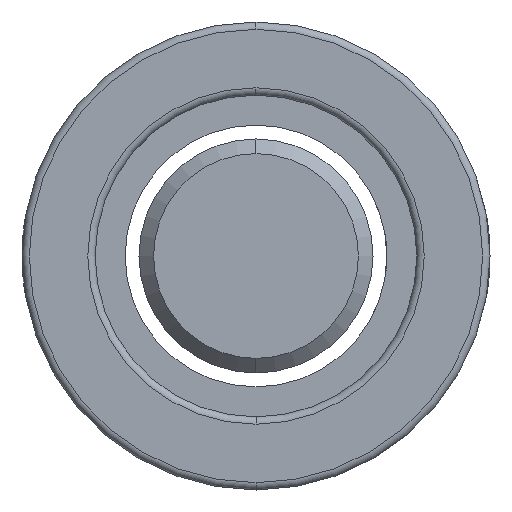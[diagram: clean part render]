
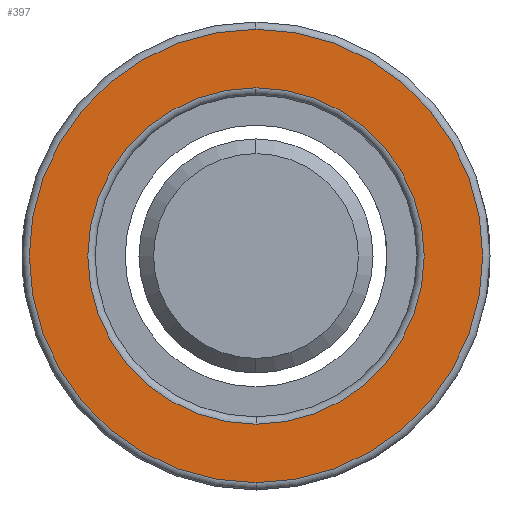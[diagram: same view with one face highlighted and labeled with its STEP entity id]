
A CAD part, left-side view. The second image highlights one B-rep face of the part: STEP entity #397.
In plain terms, the highlighted planar face has unit normal (-1, 0, 0).
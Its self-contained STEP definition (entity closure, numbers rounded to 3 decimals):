
#23 = EDGE_LOOP ( 'NONE', ( #2970, #1077 ) ) ;
#114 = ORIENTED_EDGE ( 'NONE', *, *, #3079, .T. ) ;
#153 = PLANE ( 'NONE',  #529 ) ;
#200 = DIRECTION ( 'NONE',  ( -1., 0., 0. ) ) ;
#300 = CIRCLE ( 'NONE', #648, 15.5 ) ;
#354 = DIRECTION ( 'NONE',  ( -1., 0., 0. ) ) ;
#382 = CIRCLE ( 'NONE', #1524, 11.5 ) ;
#387 = CARTESIAN_POINT ( 'NONE',  ( 0., 0., 0. ) ) ;
#393 = VERTEX_POINT ( 'NONE', #3022 ) ;
#397 = ADVANCED_FACE ( 'NONE', ( #1701, #1920 ), #153, .F. ) ;
#529 = AXIS2_PLACEMENT_3D ( 'NONE', #1853, #2333, #2075 ) ;
#630 = DIRECTION ( 'NONE',  ( 0., 0., -1. ) ) ;
#648 = AXIS2_PLACEMENT_3D ( 'NONE', #857, #354, #2555 ) ;
#671 = DIRECTION ( 'NONE',  ( 0., 0., -1. ) ) ;
#857 = CARTESIAN_POINT ( 'NONE',  ( 0., 0., 0. ) ) ;
#932 = ORIENTED_EDGE ( 'NONE', *, *, #2371, .T. ) ;
#933 = CARTESIAN_POINT ( 'NONE',  ( 0., 0., 11.5 ) ) ;
#1077 = ORIENTED_EDGE ( 'NONE', *, *, #1810, .T. ) ;
#1193 = AXIS2_PLACEMENT_3D ( 'NONE', #1357, #1847, #630 ) ;
#1357 = CARTESIAN_POINT ( 'NONE',  ( 0., 0., 0. ) ) ;
#1430 = CARTESIAN_POINT ( 'NONE',  ( 0., 0., 0. ) ) ;
#1521 = VERTEX_POINT ( 'NONE', #933 ) ;
#1524 = AXIS2_PLACEMENT_3D ( 'NONE', #387, #2069, #1629 ) ;
#1629 = DIRECTION ( 'NONE',  ( 0., 0., -1. ) ) ;
#1701 = FACE_OUTER_BOUND ( 'NONE', #2118, .T. ) ;
#1727 = AXIS2_PLACEMENT_3D ( 'NONE', #1430, #200, #671 ) ;
#1784 = EDGE_CURVE ( 'NONE', #2398, #1521, #382, .T. ) ;
#1810 = EDGE_CURVE ( 'NONE', #1521, #2398, #1837, .T. ) ;
#1837 = CIRCLE ( 'NONE', #1193, 11.5 ) ;
#1847 = DIRECTION ( 'NONE',  ( 1., 0., 0. ) ) ;
#1853 = CARTESIAN_POINT ( 'NONE',  ( 0., 0., 0. ) ) ;
#1920 = FACE_BOUND ( 'NONE', #23, .T. ) ;
#2069 = DIRECTION ( 'NONE',  ( 1., 0., 0. ) ) ;
#2075 = DIRECTION ( 'NONE',  ( 0., 0., -1. ) ) ;
#2118 = EDGE_LOOP ( 'NONE', ( #114, #932 ) ) ;
#2209 = CIRCLE ( 'NONE', #1727, 15.5 ) ;
#2333 = DIRECTION ( 'NONE',  ( 1., 0., 0. ) ) ;
#2371 = EDGE_CURVE ( 'NONE', #2974, #393, #2209, .T. ) ;
#2398 = VERTEX_POINT ( 'NONE', #3119 ) ;
#2555 = DIRECTION ( 'NONE',  ( 0., 0., -1. ) ) ;
#2804 = CARTESIAN_POINT ( 'NONE',  ( 0., 0., 15.5 ) ) ;
#2970 = ORIENTED_EDGE ( 'NONE', *, *, #1784, .T. ) ;
#2974 = VERTEX_POINT ( 'NONE', #2804 ) ;
#3022 = CARTESIAN_POINT ( 'NONE',  ( 0., 0., -15.5 ) ) ;
#3079 = EDGE_CURVE ( 'NONE', #393, #2974, #300, .T. ) ;
#3119 = CARTESIAN_POINT ( 'NONE',  ( 0., 0., -11.5 ) ) ;
